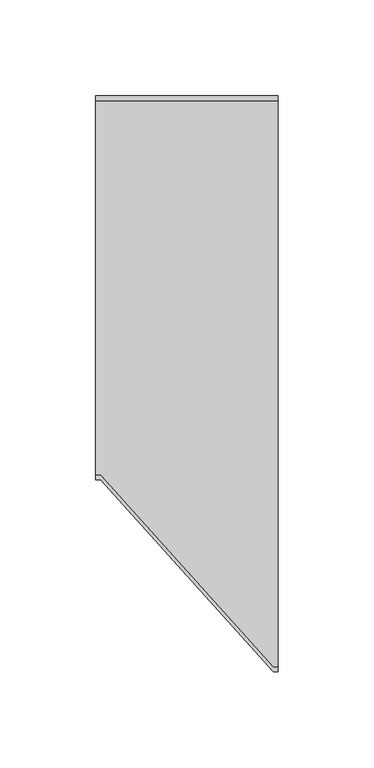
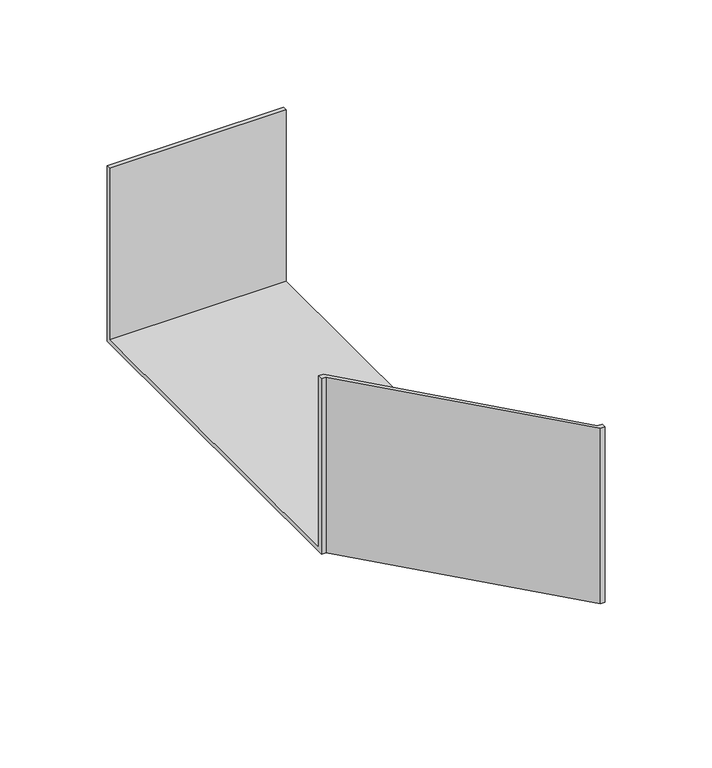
"""IFC4 building model written with IfcOpenShell, lengths in millimetres: cable carrier fitting geometry, BAKS_Reducer : RK(S/L/P)J_H100."""

from ifc_helpers import new_model, si_unit, origin, place, context, project, spatial, faceted_brep, source, transform, mapped, element, save


def cable_carrier_fitting_32826c86(model_context):
    return source(origin(), model_context, "Body", "Brep", [
        faceted_brep([(0.0, -100.0, -50.0), (0.0, -100.0, 50.0), (0.0, -97.46, 50.0), (0.0, -97.46, -47.46), (0.0, 97.46, -47.46), (0.0, 97.46, 50.0), (0.0, 100.0, 50.0), (0.0, 100.0, -50.0), (95.0, -200.0, -50.0), (95.0, 100.0, -50.0), (95.0, 100.0, 50.0), (95.0, 97.46, 50.0), (95.0, 97.46, -47.46), (95.0, -197.46, -47.46), (95.0, -197.46, 50.0), (95.0, -200.0, 50.0), (2.5, -100.0, -50.0), (2.5, -100.0, 50.0), (92.5, -200.0, 50.0), (92.5, -197.46, 50.0), (2.5, -97.46, 50.0), (2.5, -97.46, -47.46), (92.5, -197.46, -47.46), (92.5, -200.0, -50.0)], [[[0, 1, 2, 3, 4, 5, 6, 7]], [[8, 9, 10, 11, 12, 13, 14, 15]], [[1, 0, 16, 17]], [[2, 1, 17, 18, 15, 14, 19, 20]], [[3, 2, 20, 21]], [[4, 3, 21, 22, 13, 12]], [[5, 4, 12, 11]], [[6, 5, 11, 10]], [[7, 6, 10, 9]], [[0, 7, 9, 8, 23, 16]], [[8, 15, 18, 23]], [[14, 13, 22, 19]], [[22, 21, 20, 19]], [[16, 23, 18, 17]]]),
    ])


if __name__ == "__main__":
    model = new_model("IFC4")
    model_context = context("Model", 3, world=origin())
    ifc_project = project(units=[si_unit("LENGTHUNIT", "METRE", prefix="MILLI")], contexts=[model_context])
    site = spatial("IfcSite", under=ifc_project)
    building = spatial("IfcBuilding", under=site)
    placement = place(None, origin())
    cable_carrier_fitting_shape = cable_carrier_fitting_32826c86(model_context)
    element("IfcCableCarrierFitting", 1, ObjectType="BAKS_Reducer : RK(S/L/P)J_H100", at=placement, inside=building, context=model_context, shape_type="MappedRepresentation", body=[
        mapped(cable_carrier_fitting_shape, transform((0.0, 0.0, 0.0), x_axis=(1.0, 0.0, 0.0), y_axis=(0.0, 1.0, 0.0), z_axis=(0.0, 0.0, 1.0))),
    ])
    save(model, "model.ifc")
